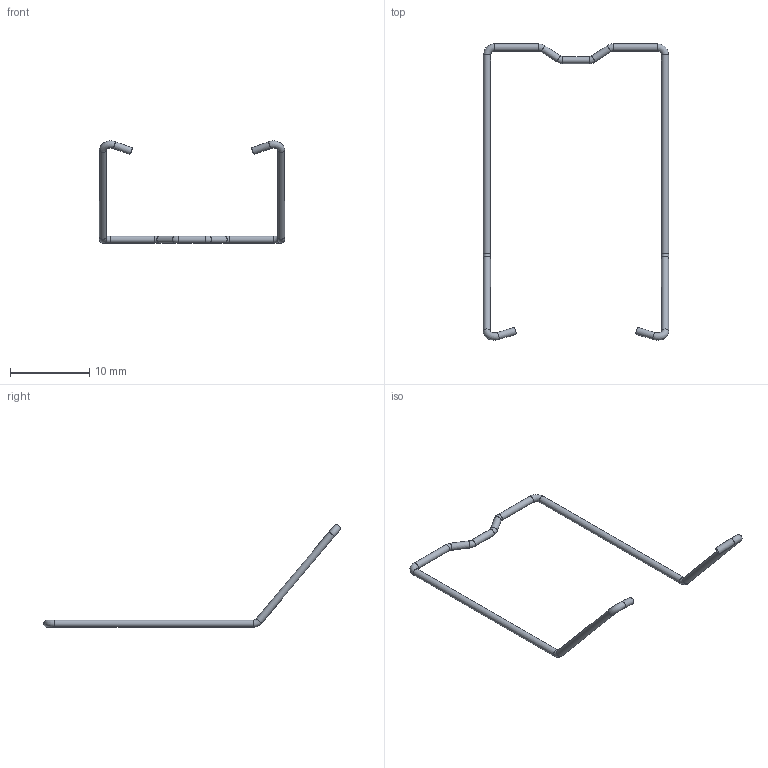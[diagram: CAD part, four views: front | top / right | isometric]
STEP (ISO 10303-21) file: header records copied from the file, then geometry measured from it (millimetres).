
FILE_DESCRIPTION(/* description */ (''),/* implementation_level */ '2;1');
FILE_NAME(/* name */ 'C:\Desktop\094.71.stp',/* time_stamp */ '2016-09-05T09:49:45+02:00',/* author */ ('marco'),/* organization */ (''),/* preprocessor_version */ 'ST-DEVELOPER v16.1',/* originating_system */ 'Autodesk Inventor 2016',/* authorisation */ '');
FILE_SCHEMA (('AUTOMOTIVE_DESIGN { 1 0 10303 214 3 1 1 }'));
Length unit declared in the file: millimetre
Products named in the file (1): 094.71
Bounding box: 23.4 x 37.44 x 12.93 mm (x, y, z)
Volume: 72.1 mm3; surface area: 321.9 mm2
Topology: 1 solids, 1 shells, 23 faces, 45 edges, 24 vertices
Faces by surface type: cylinder 11, torus 10, plane 2
Full cylindrical faces by diameter (mm): 0.9 x11
Entity records: 478 total; most frequent: DIRECTION 92, CARTESIAN_POINT 68, AXIS2_PLACEMENT_3D 46, EDGE_LOOP 44, ORIENTED_EDGE 44, FACE_OUTER_BOUND 23, ADVANCED_FACE 23, CIRCLE 22
